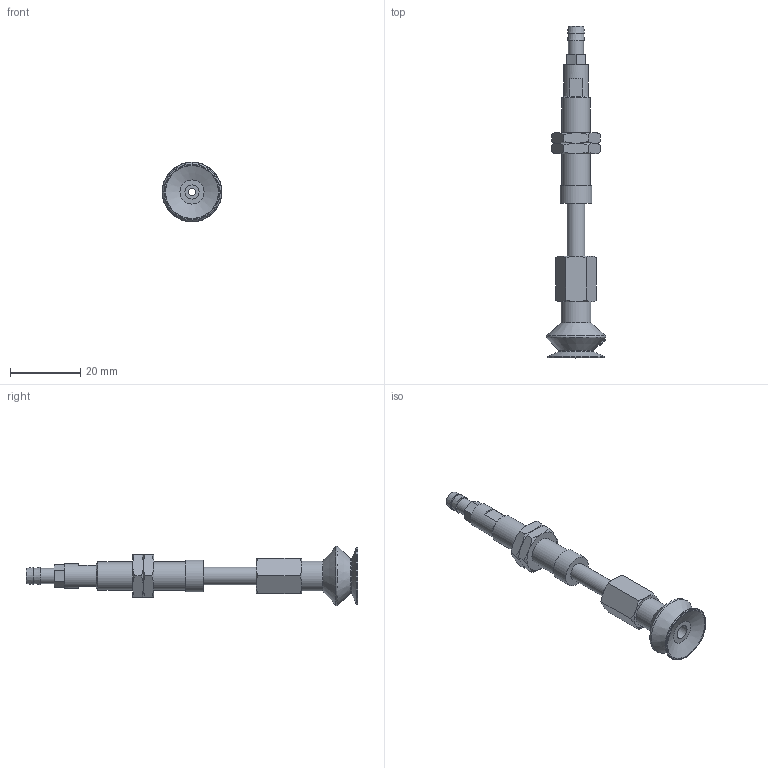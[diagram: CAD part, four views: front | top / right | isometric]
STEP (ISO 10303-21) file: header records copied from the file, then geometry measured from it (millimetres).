
FILE_DESCRIPTION(('STEP AP203'),'1');
FILE_NAME('-T.stp','2025-08-27T01:06:55',(' '),(' '),'Spatial InterOp 3D',' ',' ');
FILE_SCHEMA(('CONFIG_CONTROL_DESIGN'));
Length unit declared in the file: millimetre
Products named in the file (9): BNABPBTS-15A-15-※-T; ADAPTER; NAPATS-10A-15--M; Nut-15A-S-PB; NAPBTS-15A-15--F; BPBG-15A-※; __27; BPBG-15A; T
Assembly tree (9 placements, depth 3):
  BNABPBTS-15A-15-※-T
    ADAPTER
    NAPATS-10A-15--M
    Nut-15A-S-PB  x2
    NAPBTS-15A-15--F
    BPBG-15A-※
      __27
      BPBG-15A
    T
Bounding box: 17 x 94.5 x 17 mm (x, y, z)
Volume: 5203.9 mm3; surface area: 5842.1 mm2
Topology: 8 solids, 8 shells, 146 faces, 307 edges, 189 vertices
Faces by surface type: plane 54, cone 53, cylinder 20, torus 11, bspline 8
Full cylindrical faces by diameter (mm): 2 x2, 3 x1, 4 x3, 4.134 x1, 4.3 x1, 5 x3, 6 x2, 7 x1, 7.188 x2, 8 x1, 8.5 x1, 9 x1, 16 x1
Entity records: 4743 total; most frequent: CARTESIAN_POINT 1956, DIRECTION 483, ORIENTED_EDGE 408, AXIS2_PLACEMENT_3D 218, EDGE_CURVE 204, EDGE_LOOP 189, FACE_OUTER_BOUND 153, VERTEX_POINT 149
